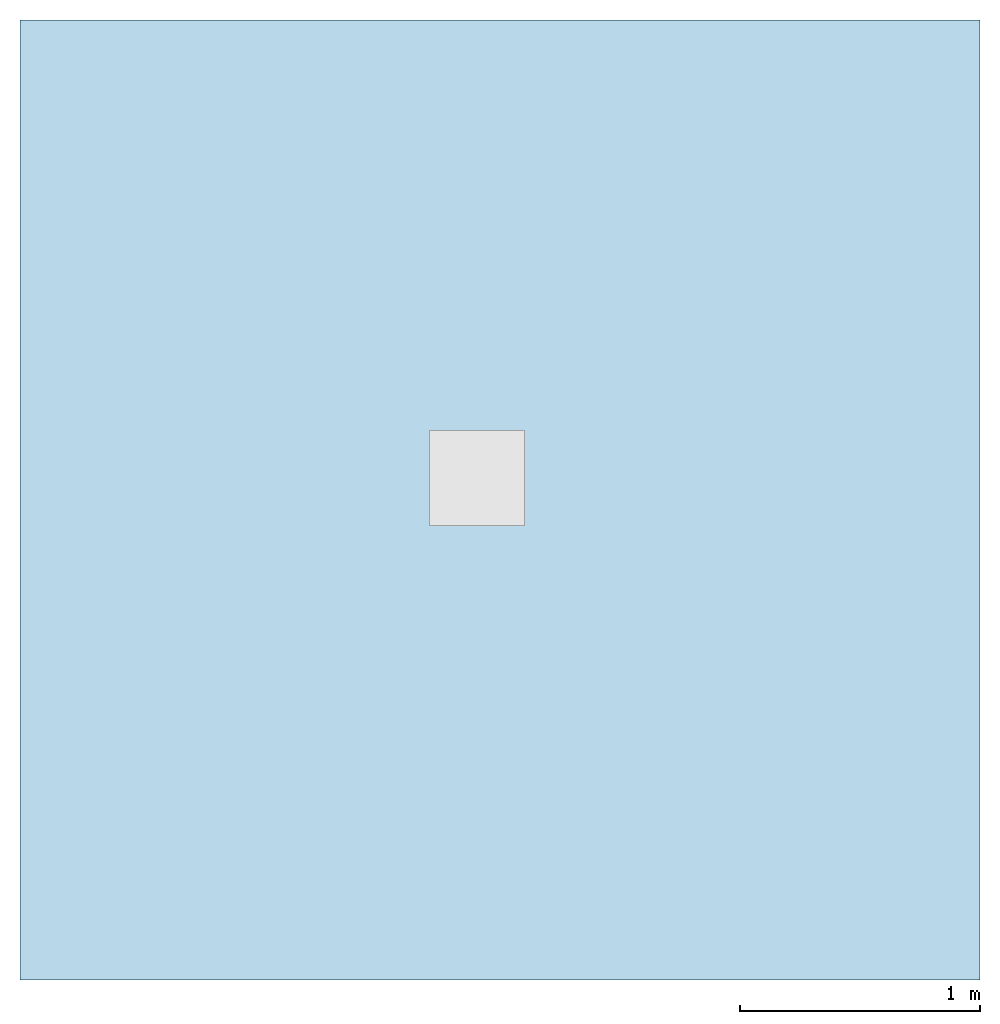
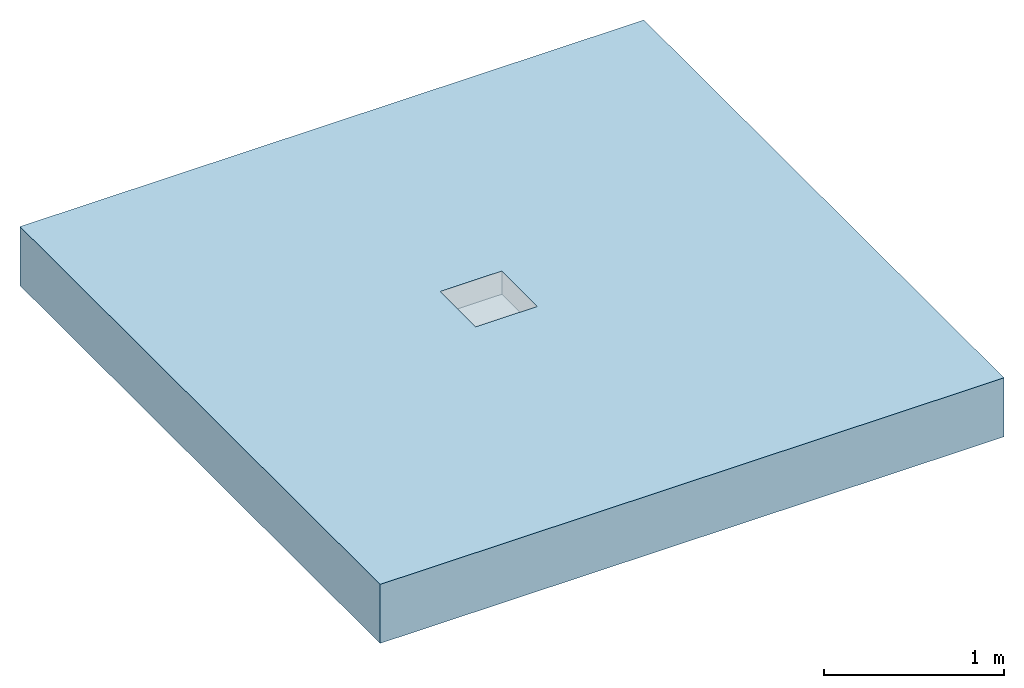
# One storey, incomplete: 1 slab, 2 openings.
"""IFC2X3 building model written with IfcOpenShell, lengths in millimetres."""

import ifcopenshell
import ifcopenshell.guid

model = None  # the IFC model being written
_history = None  # IfcOwnerHistory: only IFC2X3 demands one
_inside = {}  # id of a spatial element -> (the spatial element, [elements in it])
_under = {}  # id of a project, library or spatial element -> (it, [spatial elements below it])
_declared = {}  # id of a project -> (the project, [libraries it declares])
_typed = {}  # id of a type object -> (the type object, [elements of that type])
_made_of = {}  # id of a material, layer set ... -> (it, [elements and type objects made of it])


def new_model(schema):
    """Start an empty IFC model of exactly this schema.

    Asked for "IFC4X3", IfcOpenShell would pick the latest addendum, in which some entities
    have other attributes; the version numbers below select the first issue.
    IFC2X3 requires an IfcOwnerHistory on every rooted entity: one is made here for all.
    """
    global model, _history
    if schema == "IFC4X3":
        model = ifcopenshell.file(schema_version=(4, 3, 0, 0))
    else:
        model = ifcopenshell.file(schema=schema)
    _inside.clear()
    _under.clear()
    _declared.clear()
    _typed.clear()
    _made_of.clear()
    _history = None
    if model.schema == "IFC2X3":
        org = make("IfcOrganization", Name="unknown")
        user = make(
            "IfcPersonAndOrganization",
            ThePerson=make("IfcPerson", FamilyName="unknown"),
            TheOrganization=org,
        )
        app = make(
            "IfcApplication",
            ApplicationDeveloper=org,
            Version="unknown",
            ApplicationFullName="unknown",
            ApplicationIdentifier="unknown",
        )
        _history = make(
            "IfcOwnerHistory",
            OwningUser=user,
            OwningApplication=app,
            ChangeAction="ADDED",
            CreationDate=0,
        )
    return model


def make(cls, **values):
    """One entity of the class cls with the attributes given. An attribute that is None is left unset."""
    return model.create_entity(
        cls, **{name: value for name, value in values.items() if value is not None}
    )


def entity(cls, *values):
    """Any entity or typed value of the class cls, its attributes in the order of the schema. None: left unset."""
    e = model.create_entity(cls)
    for i, value in enumerate(values):
        if value is not None:
            e[i] = value
    return e


def rooted(cls, **values):
    """An entity with a GlobalId (a new one), such as an element, a storey or a relation."""
    return make(cls, GlobalId=ifcopenshell.guid.new(), OwnerHistory=_history, **values)


def si_unit(unit_type, name, prefix=None):
    """IfcSIUnit, for example si_unit("LENGTHUNIT", "METRE", prefix="MILLI")."""
    return make("IfcSIUnit", UnitType=unit_type, Prefix=prefix, Name=name)


def converted_unit(unit_type, name, factor, base, dimensions=None, offset=None):
    """IfcConversionBasedUnit, such as the inch: factor (a typed value) times the base unit."""
    return make(
        "IfcConversionBasedUnit"
        if offset is None
        else "IfcConversionBasedUnitWithOffset",
        ConversionOffset=offset,
        Dimensions=None
        if dimensions is None
        else entity("IfcDimensionalExponents", *dimensions),
        UnitType=unit_type,
        Name=name,
        ConversionFactor=make(
            "IfcMeasureWithUnit", ValueComponent=factor, UnitComponent=base
        ),
    )


def derived_unit(unit_type, elements):
    """IfcDerivedUnit: a product of units, each with its exponent."""
    return make(
        "IfcDerivedUnit",
        Elements=[
            make("IfcDerivedUnitElement", Unit=unit, Exponent=power)
            for unit, power in elements
        ],
        UnitType=unit_type,
    )


def assignment(units):
    """IfcUnitAssignment: the units of a project."""
    return None if units is None else make("IfcUnitAssignment", Units=units)


def point(xyz):
    """IfcCartesianPoint."""
    return None if xyz is None else make("IfcCartesianPoint", Coordinates=xyz)


def direction(xyz):
    """IfcDirection."""
    return None if xyz is None else make("IfcDirection", DirectionRatios=xyz)


def frame(location, z_axis=None, x_axis=None):
    """IfcAxis2Placement3D, a coordinate frame: its origin and axes. An axis left out is left unset."""
    return make(
        "IfcAxis2Placement3D",
        Location=point(location),
        Axis=direction(z_axis),
        RefDirection=direction(x_axis),
    )


def frame_2d(location, x_axis=None):
    """IfcAxis2Placement2D, a coordinate frame in the plane: its origin and x axis."""
    return make(
        "IfcAxis2Placement2D", Location=point(location), RefDirection=direction(x_axis)
    )


def origin():
    """The frame at (0, 0, 0) with its axes left unset."""
    return frame((0.0, 0.0, 0.0))


def origin_2d_with_axis():
    """The frame at (0, 0) in the plane with the x axis (1, 0) written out."""
    return frame_2d((0.0, 0.0), x_axis=(1.0, 0.0))


def place(relative_to, where):
    """IfcLocalPlacement: puts the frame where relative to a parent placement (None: the world)."""
    return make(
        "IfcLocalPlacement", PlacementRelTo=relative_to, RelativePlacement=where
    )


def context(
    kind, dimensions, precision=None, world=None, true_north=None, identifier=None
):
    """IfcGeometricRepresentationContext, for example the 3D "Model" context."""
    return make(
        "IfcGeometricRepresentationContext",
        ContextIdentifier=identifier,
        ContextType=kind,
        CoordinateSpaceDimension=dimensions,
        Precision=precision,
        WorldCoordinateSystem=world,
        TrueNorth=true_north,
    )


def subcontext(parent, identifier, kind, view, scale=None):
    """IfcGeometricRepresentationSubContext, for example "Body" below "Model"."""
    return make(
        "IfcGeometricRepresentationSubContext",
        ContextIdentifier=identifier,
        ContextType=kind,
        ParentContext=parent,
        TargetScale=scale,
        TargetView=view,
    )


def project(units=None, contexts=None):
    """IfcProject with its units and contexts."""
    return rooted(
        "IfcProject",
        Name="project",
        RepresentationContexts=contexts,
        UnitsInContext=assignment(units),
    )


def spatial(cls, under=None, at=None, **own):
    """A site, building, storey or space (cls), placed at a placement, below another one or the project."""
    s = rooted(cls, ObjectPlacement=at, **own)
    if under is not None:
        _under.setdefault(under.id(), (under, []))[1].append(s)
    return s


def profile(cls, at=None, kind="AREA", **sizes):
    """A parametric profile (cls). Its sizes go by their IFC names, for example OverallWidth=200.0."""
    return make(cls, ProfileType=kind, Position=at, **sizes)


def rectangle(**sizes):
    """IfcRectangleProfileDef."""
    return profile("IfcRectangleProfileDef", **sizes)


def extrude(swept, where, along, depth):
    """IfcExtrudedAreaSolid: the profile swept, set in the frame where, extruded along a direction by depth."""
    return make(
        "IfcExtrudedAreaSolid",
        SweptArea=swept,
        Position=where,
        ExtrudedDirection=direction(along),
        Depth=depth,
    )


def faces_of(points, faces, orient=None, outer=None):
    """IfcFace entities. A face is a list of loops; a loop is a list of indices into points, from 0.

    orient and outer hold one flag for each loop. By default every Orientation is true, the
    first loop of a face is its IfcFaceOuterBound and the others are IfcFaceBound.
    """
    made = []
    for i, loops in enumerate(faces):
        bounds = []
        for j, loop in enumerate(loops):
            is_outer = j == 0 if outer is None else outer[i][j]
            bounds.append(
                make(
                    "IfcFaceOuterBound" if is_outer else "IfcFaceBound",
                    Bound=make("IfcPolyLoop", Polygon=[points[k] for k in loop]),
                    Orientation=True if orient is None else orient[i][j],
                )
            )
        made.append(make("IfcFace", Bounds=bounds))
    return made


def faceted_brep(points, faces, orient=None, outer=None, voids=None):
    """IfcFacetedBrep: a solid bounded by flat faces; with voids (closed shells), ...WithVoids."""
    shared = [point(p) for p in points]
    hull = make("IfcClosedShell", CfsFaces=faces_of(shared, faces, orient, outer))
    if voids is None:
        return make("IfcFacetedBrep", Outer=hull)
    return make(
        "IfcFacetedBrepWithVoids",
        Outer=hull,
        Voids=[
            make(cls, CfsFaces=faces_of(shared, fs, o, b)) for cls, fs, o, b in voids
        ],
    )


def shape(context_of_items, identifier, shape_type, items):
    """IfcShapeRepresentation: the items that make up one representation, for example the "Body"."""
    return make(
        "IfcShapeRepresentation",
        ContextOfItems=context_of_items,
        RepresentationIdentifier=identifier,
        RepresentationType=shape_type,
        Items=items,
    )


def material(Name=None, Category=None):
    """IfcMaterial."""
    return make("IfcMaterial", Name=Name, Category=Category)


def layer(
    of_material, thickness, ventilated=None, Name=None, Category=None, Priority=None
):
    """IfcMaterialLayer: one layer of a wall or slab, of a material (None: an air gap)."""
    return make(
        "IfcMaterialLayer",
        Material=of_material,
        LayerThickness=thickness,
        IsVentilated=ventilated,
        Name=Name,
        Category=Category,
        Priority=Priority,
    )


def layer_set(layers, Name=None):
    """IfcMaterialLayerSet."""
    return make("IfcMaterialLayerSet", MaterialLayers=layers, LayerSetName=Name)


def layer_usage(for_layer_set, set_direction, sense, offset, extent=None):
    """IfcMaterialLayerSetUsage: how a layer set lies in its element."""
    return make(
        "IfcMaterialLayerSetUsage",
        ForLayerSet=for_layer_set,
        LayerSetDirection=set_direction,
        DirectionSense=sense,
        OffsetFromReferenceLine=offset,
        ReferenceExtent=extent,
    )


def made_of(thing, what):
    """Note that an element or type object is made of a material, layer set ...; save() writes the relation."""
    if what is not None:
        _made_of.setdefault(what.id(), (what, []))[1].append(thing)
    return thing


def element(
    cls,
    number,
    at=None,
    inside=None,
    cuts=None,
    type_object=None,
    material=None,
    context=None,
    identifier="Body",
    shape_type=None,
    held_by="IfcProductDefinitionShape",
    body=None,
    shapes=None,
    **own,
):
    """One element of the class cls, such as IfcWall. Its Tag is "e" and its number.

    at: its placement. inside: the storey or other place that contains it. cuts: it is an
    opening in that element (IfcRelVoidsElement). A single representation is given by context,
    identifier, shape_type and body (its items); several are given by shapes. held_by: the class
    of the entity that holds the representations. save() writes the other relations.
    """
    e = rooted(cls, Tag="e%d" % number, ObjectPlacement=at, **own)
    if body is not None:
        shapes = [shape(context, identifier, shape_type, body)]
    if shapes is not None:
        e.Representation = make(held_by, Representations=shapes)
    if inside is not None:
        _inside.setdefault(inside.id(), (inside, []))[1].append(e)
    if cuts is not None:
        rooted(
            "IfcRelVoidsElement", RelatingBuildingElement=cuts, RelatedOpeningElement=e
        )
    if type_object is not None:
        _typed.setdefault(type_object.id(), (type_object, []))[1].append(e)
    return made_of(e, material)


def aggregate(whole, parts):
    """IfcRelAggregates: a whole, such as a stair, and the parts it consists of."""
    return rooted("IfcRelAggregates", RelatingObject=whole, RelatedObjects=parts)


def save(model, path):
    """Write the relations noted so far, then the file.

    IfcRelAggregates (storeys below a building ...), IfcRelContainedInSpatialStructure (elements
    in a storey), IfcRelDefinesByType, IfcRelAssociatesMaterial and IfcRelDeclares: one each for
    every whole, place, type object, material and project.
    """
    for whole, parts in _under.values():
        aggregate(whole, parts)
    for where, things in _inside.values():
        rooted(
            "IfcRelContainedInSpatialStructure",
            RelatedElements=things,
            RelatingStructure=where,
        )
    for kind, things in _typed.values():
        rooted("IfcRelDefinesByType", RelatedObjects=things, RelatingType=kind)
    for what, things in _made_of.values():
        rooted("IfcRelAssociatesMaterial", RelatedObjects=things, RelatingMaterial=what)
    for by, libraries in _declared.values():
        rooted("IfcRelDeclares", RelatingContext=by, RelatedDefinitions=libraries)
    model.write(path)


model = new_model("IFC2X3")

# Units and contexts
model_context = context("Model", 3, precision=1e-05, world=origin(), true_north=direction((2.0, 6.12303176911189e-17, 1.0)))
context_of_model = context(None, 3, precision=1e-05, world=origin(), true_north=direction((2.0, 6.12303176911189e-17, 1.0)))
body_context = subcontext(model_context, "Body", "Model", "MODEL_VIEW")
ifc_project = project(units=[si_unit("LENGTHUNIT", "METRE", prefix="MILLI"), si_unit("AREAUNIT", "SQUARE_METRE"), si_unit("VOLUMEUNIT", "CUBIC_METRE"), converted_unit("PLANEANGLEUNIT", "DEGREE", entity("IfcRatioMeasure", 0.0174532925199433), si_unit("PLANEANGLEUNIT", "RADIAN"), dimensions=[0, 0, 0, 0, 0, 0, 0]), si_unit("MASSUNIT", "GRAM", prefix="KILO"), si_unit("TIMEUNIT", "SECOND"), si_unit("THERMODYNAMICTEMPERATUREUNIT", "KELVIN"), derived_unit("THERMALTRANSMITTANCEUNIT", [(si_unit("MASSUNIT", "GRAM", prefix="KILO"), 1), (si_unit("THERMODYNAMICTEMPERATUREUNIT", "KELVIN"), -1), (si_unit("TIMEUNIT", "SECOND"), -3)]), derived_unit("VOLUMETRICFLOWRATEUNIT", [(si_unit("LENGTHUNIT", "METRE"), 3), (si_unit("TIMEUNIT", "SECOND"), -1)]), si_unit("POWERUNIT", "WATT")], contexts=[model_context, context_of_model])

# Site, building, storey
site_placement = place(None, origin())
site = spatial("IfcSite", under=ifc_project, at=site_placement, Name="Default", CompositionType="ELEMENT")
building_placement = place(site_placement, origin())
building = spatial("IfcBuilding", under=site, at=building_placement, CompositionType="ELEMENT")
storey_placement = place(building_placement, origin())
storey = spatial("IfcBuildingStorey", under=building, at=storey_placement, Name="Level 1", CompositionType="ELEMENT", Elevation=0.0)

# Slab, openings
ifc_material = material(Name="Concrete, Broom Finish")
ifc_layer = layer(ifc_material, 400.0)
ifc_layer_set = layer_set([ifc_layer], Name="Floor:Generic Floor - 400mm")
ifc_layer_usage = layer_usage(ifc_layer_set, "AXIS3", "POSITIVE", 0.0)
slab_placement = place(storey_placement, origin())
slab = element("IfcSlab", 1, at=slab_placement, inside=storey, material=ifc_layer_usage, Name="Floor:Generic Floor - 400mm", ObjectType="Floor:Generic Floor - 400mm", PredefinedType="FLOOR", context=body_context, shape_type="SweptSolid", body=[
    extrude(rectangle(XDim=4000.0, YDim=4000.0, at=frame_2d((0.0, 0.0), x_axis=(0.0, -1.0))), frame((-42.176138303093, 2.05004766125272, 0.0), z_axis=(0.0, 0.0, -1.0), x_axis=(-1.0, 0.0, 0.0)), (0.0, 0.0, 1.0), 400.0),
])
opening_1_placement = place(slab_placement, origin())
element("IfcOpeningElement", 2, at=opening_1_placement, cuts=slab, ObjectType="Recess", context=body_context, shape_type="SweptSolid", body=[
    extrude(rectangle(XDim=99.9999999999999, YDim=100.0, at=origin_2d_with_axis()), frame((-138.311063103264, 143.737836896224, -5000.0)), (0.0, 0.0, 1.0), 30.0000000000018),
])
opening_2_placement = place(slab_placement, origin())
element("IfcOpeningElement", 3, at=opening_2_placement, cuts=slab, ObjectType="Recess", context=body_context, shape_type="Brep", body=[
    faceted_brep([(-335.801063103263, -103.752163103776, 0.0), (59.1789368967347, -103.752163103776, 0.0), (59.1789368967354, 291.227836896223, 0.0), (-335.801063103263, 291.227836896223, 0.0), (59.1789368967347, -103.752163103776, -55.0), (59.1789368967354, 291.227836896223, -55.0), (-335.801063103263, -103.752163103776, -55.0), (-335.801063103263, 291.227836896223, -55.0), (-338.31106310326, 293.737836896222, -159.0), (61.6889368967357, 293.73783689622, -159.0), (61.6889368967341, -106.262163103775, -159.0), (-338.311063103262, -106.262163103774, -159.0), (61.6889368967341, -106.262163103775, -84.0), (60.1889368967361, -104.762163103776, -84.0), (-336.811063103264, -104.762163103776, -84.0), (60.1889368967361, 292.237836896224, -84.0), (-338.311063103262, -106.262163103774, -84.0), (-336.811063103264, 292.237836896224, -84.0), (61.6889368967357, 293.73783689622, -84.0), (-338.31106310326, 293.737836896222, -84.0), (60.1889368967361, -104.762163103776, -55.0), (-336.811063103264, -104.762163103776, -55.0), (60.1889368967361, 292.237836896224, -55.0), (-336.811063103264, 292.237836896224, -55.0)], [[[0, 1, 2]], [[2, 3, 0]], [[4, 5, 2]], [[2, 1, 4]], [[6, 4, 1]], [[1, 0, 6]], [[7, 6, 0]], [[0, 3, 7]], [[5, 7, 3]], [[3, 2, 5]], [[8, 9, 10]], [[10, 11, 8]], [[12, 13, 14]], [[13, 12, 15]], [[16, 14, 17]], [[14, 16, 12]], [[15, 18, 17]], [[18, 15, 12]], [[17, 19, 16]], [[19, 17, 18]], [[10, 9, 18]], [[18, 12, 10]], [[11, 10, 16]], [[12, 16, 10]], [[8, 11, 16]], [[16, 19, 8]], [[9, 8, 18]], [[19, 18, 8]], [[20, 4, 6]], [[4, 20, 5]], [[21, 6, 7]], [[6, 21, 20]], [[5, 22, 7]], [[22, 5, 20]], [[7, 23, 21]], [[23, 7, 22]], [[22, 20, 13]], [[13, 15, 22]], [[23, 22, 15]], [[15, 17, 23]], [[21, 23, 17]], [[17, 14, 21]], [[20, 21, 14]], [[14, 13, 20]]]),
])

save(model, "model.ifc")
